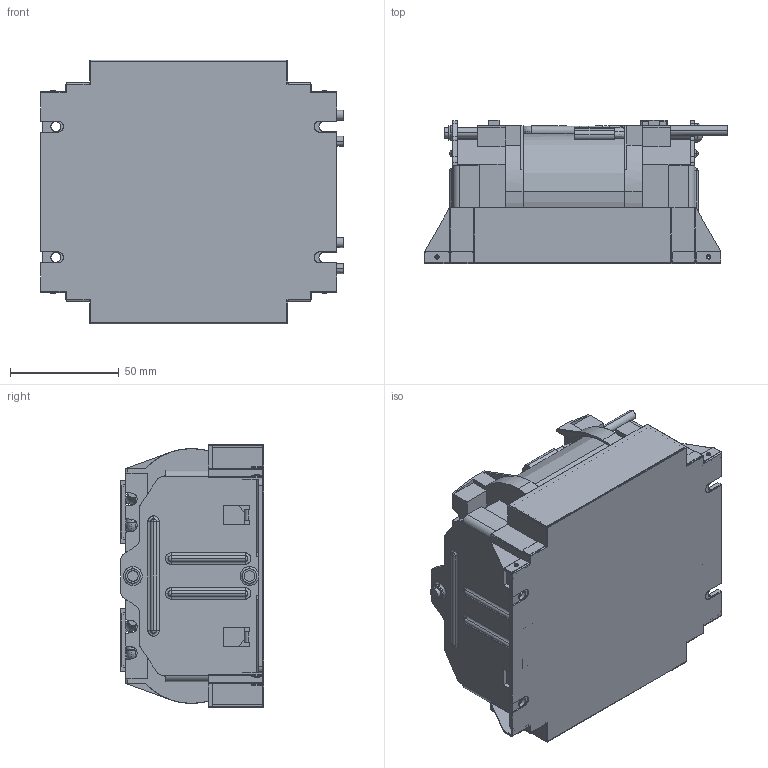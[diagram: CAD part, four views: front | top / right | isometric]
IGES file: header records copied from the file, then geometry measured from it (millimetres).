
Start section: SolidWorks IGES file using analytic representation for surfaces
Global section: file name: 34H\\10.106.230.1\R&D File\05_COMP\02_Mechanical\10_Others\PV_RT 81\网络用3D模型\半灌封模型\5KW_P_ACL\SF13235B-PM00DS20R(M-5KW_ACL-P).IGS; native system: SolidWorks 2009; preprocessor: SolidWorks 2009; author: Administrator; date: 120508.165648; units: millimetre
Bounding box: 139 x 65.75 x 121 mm (x, y, z)
Surface area: 210425 mm2 (no closed solid volume)
Topology: 0 solids, 0 shells, 1201 faces, 9561 edges, 9538 vertices
Faces by surface type: bspline 801, revolution 400
